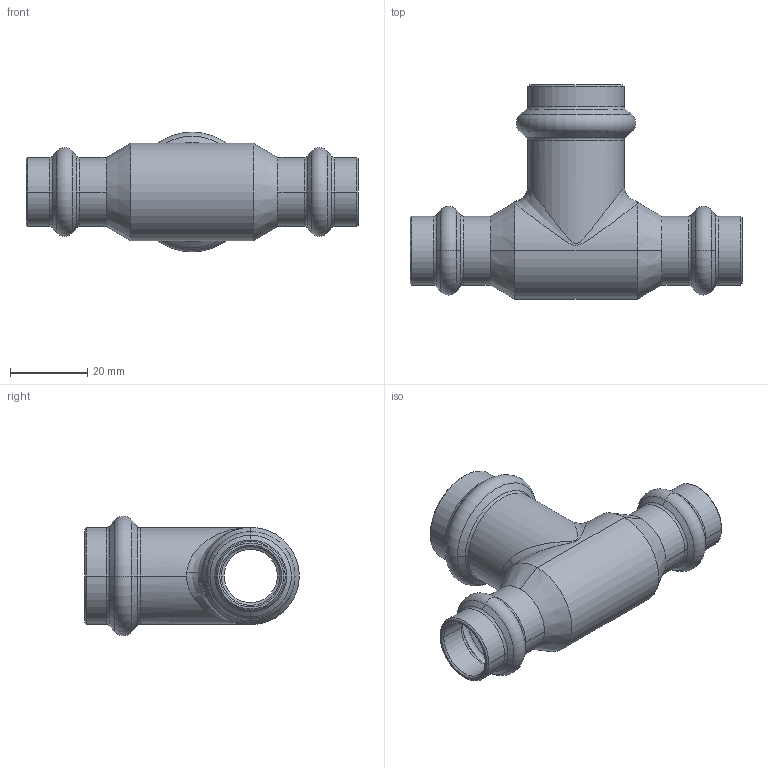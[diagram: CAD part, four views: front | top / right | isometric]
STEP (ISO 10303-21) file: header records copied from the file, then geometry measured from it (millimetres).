
FILE_DESCRIPTION (( 'STEP AP203' ), '1' );
FILE_NAME ('SP5130 Ø15-22-15.STEP', '2017-04-24T12:49:04', ( '' ), ( '' ), 'SwSTEP 2.0', 'SolidWorks 2016', '' );
FILE_SCHEMA (( 'CONFIG_CONTROL_DESIGN' ));
Length unit declared in the file: millimetre
Products named in the file (1): SP5130 Ø15-22-15
Bounding box: 86 x 55.6 x 31 mm (x, y, z)
Volume: 14958.8 mm3; surface area: 16229.1 mm2
Topology: 1 solids, 1 shells, 124 faces, 286 edges, 164 vertices
Faces by surface type: cone 48, torus 36, cylinder 32, bspline 4, plane 4
Entity records: 4953 total; most frequent: CARTESIAN_POINT 1987, DIRECTION 692, ORIENTED_EDGE 572, AXIS2_PLACEMENT_3D 307, EDGE_CURVE 286, CIRCLE 186, VERTEX_POINT 164, EDGE_LOOP 128
